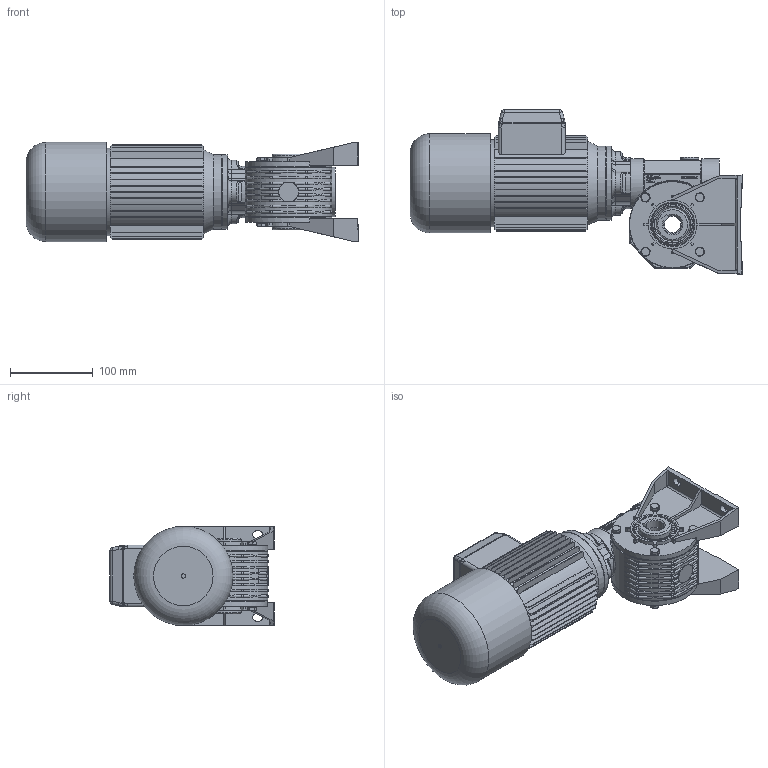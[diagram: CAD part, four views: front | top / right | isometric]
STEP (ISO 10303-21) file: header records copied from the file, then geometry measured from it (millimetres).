
FILE_DESCRIPTION((''),'2;1');
FILE_NAME('Y:\Archivi Inventor\Prog_01\GRAND_10\Figurini\mrv10 VECCHIO\pam63 b14 - B\MRV10 PAM63B14 P3 B.stp','2014-01-15T10:00:35',('tech3'),(''),'Autodesk Inventor 2013','Autodesk Inventor 2013','');
FILE_SCHEMA(('AUTOMOTIVE_DESIGN { 1 0 10303 214 1 1 1 1 }'));
Length unit declared in the file: millimetre
Products named in the file (15): mrv10; V10_PRIMARIO; carcassa mrv10 fig; corona MRV10-f22 fig; RCA_40x7; 40_52_8; Tappo 3_8 GAS_esagn_incsst; Guarnizione 3_8 GAS; 0101029; DIN EN 24017 M6 x 16; 0101010; 0101028; 0101006; DIN EN ISO 4762 M6 x 16; motori B14 brake 63
Assembly tree (27 placements, depth 3):
  mrv10
    V10_PRIMARIO
      carcassa mrv10 fig
      corona MRV10-f22 fig
      RCA_40x7
      40_52_8  x2
      Tappo 3_8 GAS_esagn_incsst
      Guarnizione 3_8 GAS
      0101029  x2
      DIN EN 24017 M6 x 16  x8
      0101010  x2
      0101028
    0101006
    DIN EN ISO 4762 M6 x 16  x4
    motori B14 brake 63
Bounding box: 401.95 x 199 x 120 mm (x, y, z)
Volume: 2636869.5 mm3; surface area: 450080.2 mm2
Topology: 27 solids, 31 shells, 1877 faces, 4773 edges, 3055 vertices
Faces by surface type: plane 1056, cylinder 383, bspline 224, cone 118, torus 88, sphere 8
Full cylindrical faces by diameter (mm): 2 x2, 4.134 x4, 4.917 x12, 5 x1, 6 x20, 6.5 x20, 8 x1, 8.88 x8, 10 x4, 11 x9, 14.95 x1, 16.3 x1, 16.5 x1, 19.981 x2, 22 x2, 24 x1, 35 x1, 35.2 x1, 39.4 x2, 40 x11, 42.5 x1, 42.881 x2, 47.232 x2, 52 x4, 60 x4, 80 x2, 82 x6, 90 x2, 103.5 x2, 104 x2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
Entity records: 52861 total; most frequent: CARTESIAN_POINT 15565, ORIENTED_EDGE 7802, DIRECTION 6919, EDGE_CURVE 3901, VERTEX_POINT 2593, AXIS2_PLACEMENT_3D 2342, VECTOR 2235, LINE 2235
